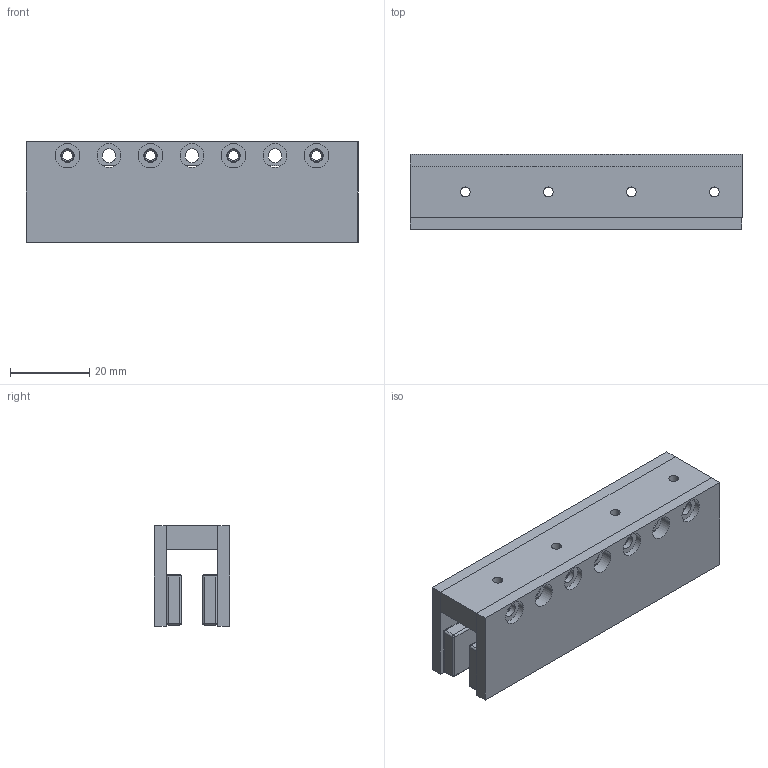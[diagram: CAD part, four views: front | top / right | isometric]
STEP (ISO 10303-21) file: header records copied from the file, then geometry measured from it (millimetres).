
FILE_DESCRIPTION (( 'STEP AP214' ), '1' );
FILE_NAME ('JKA1-84隅赽.STEP', '2025-09-05T12:29:32', ( '' ), ( '' ), 'SwSTEP 2.0', 'SolidWorks 2016', '' );
FILE_SCHEMA (( 'AUTOMOTIVE_DESIGN' ));
Length unit declared in the file: millimetre
Products named in the file (1): JKA1-84隅赽
Bounding box: 84 x 19 x 25.4 mm (x, y, z)
Surface area: 18215.7 mm2 (no closed solid volume)
Topology: 0 solids, 19 shells, 382 faces, 936 edges, 508 vertices
Faces by surface type: cylinder 206, plane 94, sphere 72, cone 10
Entity records: 14743 total; most frequent: DIRECTION 2058, CARTESIAN_POINT 1755, ORIENTED_EDGE 1556, EDGE_CURVE 864, AXIS2_PLACEMENT_3D 811, VERTEX_POINT 508, EDGE_LOOP 440, LINE 436
